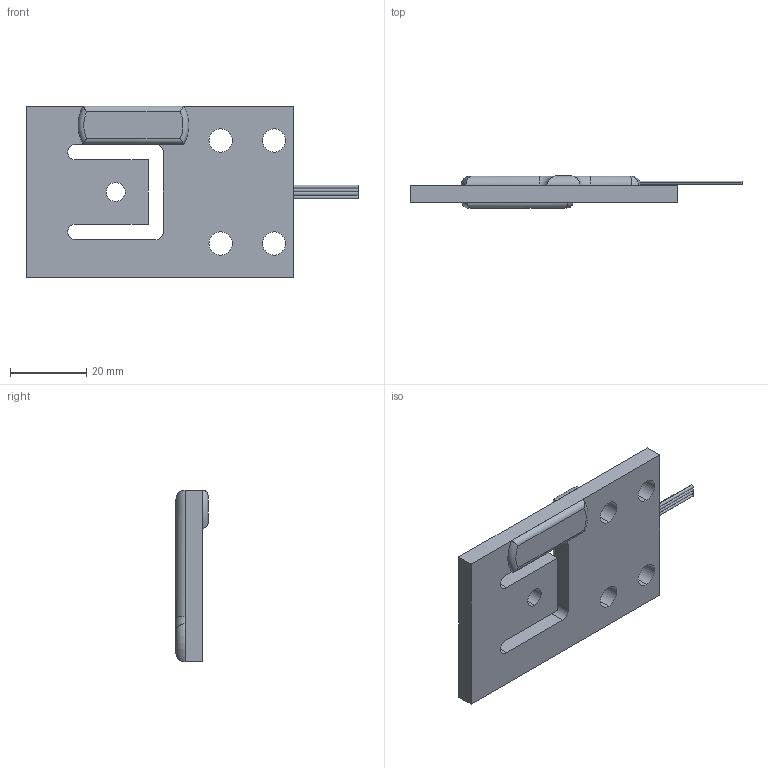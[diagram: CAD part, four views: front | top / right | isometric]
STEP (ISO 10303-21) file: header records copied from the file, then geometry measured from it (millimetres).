
FILE_DESCRIPTION (( 'STEP AP203' ), '1' );
FILE_NAME ('FHA-75KG.STEP', '2024-07-18T00:30:18', ( '' ), ( '' ), 'SwSTEP 2.0', 'SolidWorks 2019', '' );
FILE_SCHEMA (( 'CONFIG_CONTROL_DESIGN' ));
Length unit declared in the file: millimetre
Products named in the file (1): FHA-75KG
Bounding box: 87 x 8.42 x 45 mm (x, y, z)
Volume: 14512.8 mm3; surface area: 10314.1 mm2
Topology: 7 solids, 7 shells, 65 faces, 153 edges, 100 vertices
Faces by surface type: cylinder 32, plane 24, torus 7, bspline 2
Entity records: 2164 total; most frequent: CARTESIAN_POINT 554, DIRECTION 332, ORIENTED_EDGE 302, EDGE_CURVE 151, AXIS2_PLACEMENT_3D 130, VERTEX_POINT 100, EDGE_LOOP 77, LINE 72
